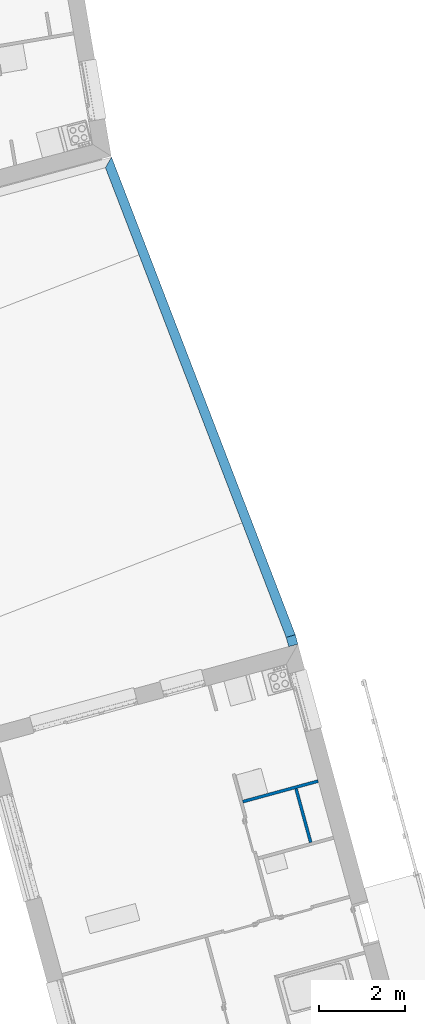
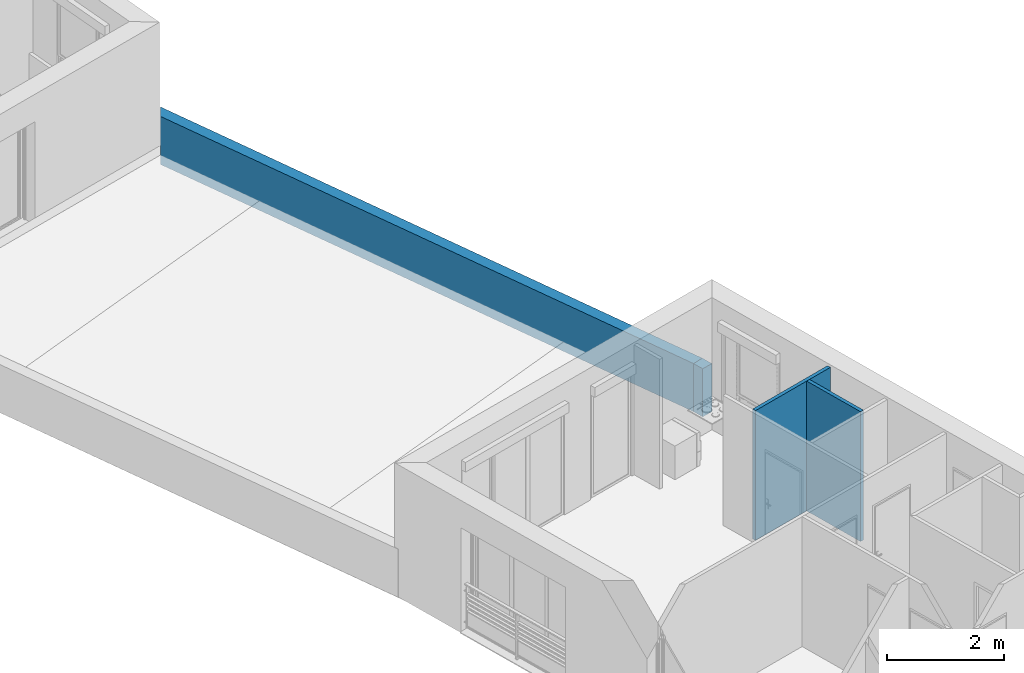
# One storey, part 69 of 121: 4 walls.
"""IFC2X3 building model written with IfcOpenShell, lengths in metres."""

from ifc_helpers import new_model, entity, si_unit, converted_unit, derived_unit, money_unit, direction, frame, origin_with_axes, place, context, subcontext, project, spatial, polyline, outline, extrude, material, layer, layer_set, layer_usage, type_object, element, save


model = new_model("IFC2X3")

# Units and contexts
model_context = context("Model", 3, precision=1e-05, world=origin_with_axes(), true_north=direction((0.0, 1.0)))
body_context = subcontext(model_context, "Body", "Model", "MODEL_VIEW")
ifc_project = project(units=[si_unit("LENGTHUNIT", "METRE"), si_unit("AREAUNIT", "SQUARE_METRE"), si_unit("VOLUMEUNIT", "CUBIC_METRE"), converted_unit("PLANEANGLEUNIT", "DEGREE", entity("IfcPlaneAngleMeasure", 0.0174532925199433), si_unit("PLANEANGLEUNIT", "RADIAN"), dimensions=[0, 0, 0, 0, 0, 0, 0]), money_unit("CHF"), converted_unit("TIMEUNIT", "Year", entity("IfcTimeMeasure", 31557600.0), si_unit("TIMEUNIT", "SECOND"), dimensions=[0, 0, 1, 0, 0, 0, 0]), si_unit("MASSUNIT", "GRAM", prefix="KILO"), si_unit("THERMODYNAMICTEMPERATUREUNIT", "DEGREE_CELSIUS"), si_unit("LUMINOUSINTENSITYUNIT", "LUMEN"), si_unit("ENERGYUNIT", "JOULE", prefix="MEGA"), derived_unit("THERMALCONDUCTANCEUNIT", [(si_unit("POWERUNIT", "WATT"), 1), (si_unit("LENGTHUNIT", "METRE"), -1), (si_unit("THERMODYNAMICTEMPERATUREUNIT", "KELVIN"), -1)]), derived_unit("SPECIFICHEATCAPACITYUNIT", [(si_unit("ENERGYUNIT", "JOULE"), 1), (si_unit("MASSUNIT", "GRAM", prefix="KILO"), -1), (si_unit("THERMODYNAMICTEMPERATUREUNIT", "KELVIN"), -1)]), derived_unit("MASSDENSITYUNIT", [(si_unit("MASSUNIT", "GRAM", prefix="KILO"), 1), (si_unit("VOLUMEUNIT", "CUBIC_METRE"), -1)])], contexts=[model_context])

# Site, building, storey
site_placement = place(None, origin_with_axes())
site = spatial("IfcSite", under=ifc_project, at=site_placement, Name="Site", CompositionType="ELEMENT")
building_placement = place(site_placement, origin_with_axes())
building = spatial("IfcBuilding", under=site, at=building_placement, Name="Bâtiment", CompositionType="ELEMENT")
storey_placement = place(building_placement, frame((0.0, 0.0, 2.75), z_axis=(0.0, 0.0, 1.0), x_axis=(1.0, 0.0, 0.0)))
storey = spatial("IfcBuildingStorey", under=building, at=storey_placement, Name="Etage 1", CompositionType="ELEMENT", Elevation=2.75)

# Walls
ifc_material_1 = material(Name="Hachure solide 268963992")
ifc_layer_1 = layer(ifc_material_1, 0.07, ventilated="UNKNOWN")
ifc_layer_set_1 = layer_set([ifc_layer_1], Name="Cloison 70 0826278243")
ifc_layer_usage_1 = layer_usage(ifc_layer_set_1, "AXIS2", "POSITIVE", 0.0)
wall_type_1 = type_object("IfcWallType", Name="Cloison 70 0826278243 70", PredefinedType="NOTDEFINED")
wall_1_placement = place(storey_placement, frame((9593.661035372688, -1048.273438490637, 57.7), z_axis=(0.0, 0.0, 1.0), x_axis=(0.2627340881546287, -0.9648682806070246, 0.0)))
element("IfcWallStandardCase", 1, at=wall_1_placement, inside=storey, type_object=wall_type_1, material=ifc_layer_usage_1, Name="Mur-149", context=body_context, shape_type="SweptSolid", body=[
    extrude(outline(polyline([(0.0, 0.0), (1.292169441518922, 0.0), (1.292169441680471, 0.07000000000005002), (0.0, 0.07000000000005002), (0.0, 0.0)])), origin_with_axes(), (0.0, 0.0, 1.0), 2.7),
])
ifc_layer_usage_2 = layer_usage(ifc_layer_set_1, "AXIS2", "NEGATIVE", 0.0)
wall_2_placement = place(storey_placement, frame((9592.448928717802, -1048.530946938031, 57.7), z_axis=(0.0, 0.0, 1.0), x_axis=(0.9648682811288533, 0.2627340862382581, 0.0)))
element("IfcWallStandardCase", 2, at=wall_2_placement, inside=storey, type_object=wall_type_1, material=ifc_layer_usage_2, Name="Mur-149", context=body_context, shape_type="SweptSolid", body=[
    extrude(outline(polyline([(0.0, -0.06999999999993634), (1.813062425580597, -0.06999999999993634), (1.813062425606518, 0.0), (0.0, 0.0), (0.0, -0.06999999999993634)])), origin_with_axes(), (0.0, 0.0, 1.0), 2.7),
])
ifc_material_2 = material(Name="Empty Fill 3000033799")
ifc_layer_2 = layer(ifc_material_2, 0.22, ventilated="UNKNOWN")
ifc_layer_set_2 = layer_set([ifc_layer_2], Name="acrotère 22")
ifc_layer_usage_3 = layer_usage(ifc_layer_set_2, "AXIS2", "POSITIVE", 0.0)
wall_type_2 = type_object("IfcWallType", Name="acrotère 22 220", PredefinedType="NOTDEFINED")
wall_3_placement = place(storey_placement, frame((9593.67620369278, -1044.690928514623, 57.7), z_axis=(0.0, 0.0, 1.0), x_axis=(-0.3591526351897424, 0.9332788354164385, 0.0)))
element("IfcWallStandardCase", 3, at=wall_3_placement, inside=storey, type_object=wall_type_2, material=ifc_layer_usage_3, Name="Mur-112", context=body_context, shape_type="SweptSolid", body=[
    extrude(outline(polyline([(0.0, 0.0), (11.86382831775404, 0.0), (11.68520166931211, 0.220000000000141), (0.0111751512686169, 0.220000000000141), (0.0, 0.0)])), origin_with_axes(), (0.0, 0.0, 1.0), 1.0),
])
ifc_layer_usage_4 = layer_usage(ifc_layer_set_2, "AXIS2", "POSITIVE", 0.0)
wall_4_placement = place(storey_placement, frame((9593.736527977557, -1044.912464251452, 57.7), z_axis=(0.0, 0.0, 1.0), x_axis=(-0.2627340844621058, 0.9648682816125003, 0.0)))
element("IfcWallStandardCase", 4, at=wall_4_placement, inside=storey, type_object=wall_type_2, material=ifc_layer_usage_4, Name="Mur-112", context=body_context, shape_type="SweptSolid", body=[
    extrude(outline(polyline([(0.0, 0.0), (0.2296020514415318, 0.0), (0.218426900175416, 0.2200000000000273), (-2.281694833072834e-10, 0.220000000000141), (0.0, 0.0)])), origin_with_axes(), (0.0, 0.0, 1.0), 1.0),
])

save(model, "model.ifc")
